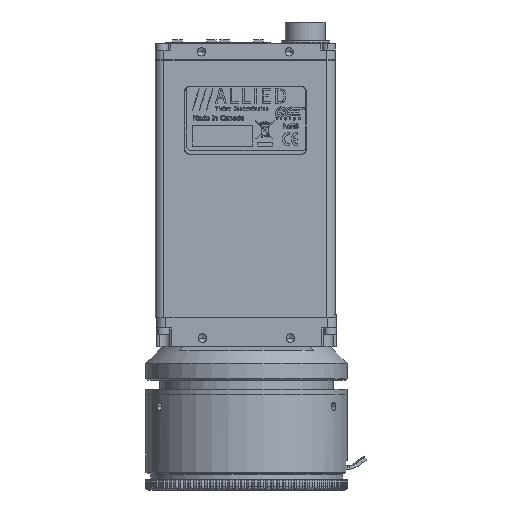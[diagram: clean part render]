
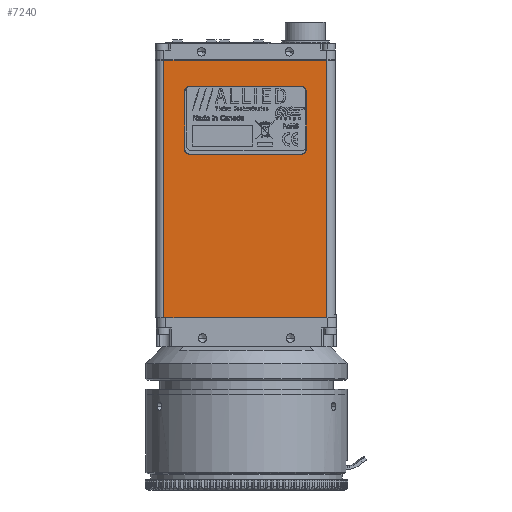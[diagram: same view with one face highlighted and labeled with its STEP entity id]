
A CAD part, front view. The second image highlights one B-rep face of the part: STEP entity #7240.
In plain terms, the highlighted planar face has unit normal (0, -1, 0).
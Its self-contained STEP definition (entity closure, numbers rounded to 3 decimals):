
#1696 = DIRECTION ( 'NONE',  ( -1., 0., 0. ) ) ;
#1931 = CARTESIAN_POINT ( 'NONE',  ( 18.034, -10.16, 28.893 ) ) ;
#5061 = ORIENTED_EDGE ( 'NONE', *, *, #145654, .T. ) ;
#6413 = DIRECTION ( 'NONE',  ( 0., 1., 0. ) ) ;
#7240 = ADVANCED_FACE ( 'NONE', ( #71254, #68857 ), #147604, .T. ) ;
#11572 = VERTEX_POINT ( 'NONE', #1931 ) ;
#15397 = EDGE_CURVE ( 'NONE', #209998, #77628, #119273, .T. ) ;
#15946 = EDGE_CURVE ( 'NONE', #77628, #193357, #219685, .T. ) ;
#21090 = ORIENTED_EDGE ( 'NONE', *, *, #25358, .T. ) ;
#22671 = CARTESIAN_POINT ( 'NONE',  ( -24.13, -10.16, -38.1 ) ) ;
#24043 = EDGE_LOOP ( 'NONE', ( #237854, #21090, #124357, #181994, #144247, #198197, #91130, #5061 ) ) ;
#25358 = EDGE_CURVE ( 'NONE', #204116, #196779, #190569, .T. ) ;
#26847 = AXIS2_PLACEMENT_3D ( 'NONE', #142779, #142738, #142561 ) ;
#28666 = DIRECTION ( 'NONE',  ( 1., 0., 0. ) ) ;
#28728 = DIRECTION ( 'NONE',  ( 0., 1., 0. ) ) ;
#28941 = CARTESIAN_POINT ( 'NONE',  ( 16.447, -10.16, 11.748 ) ) ;
#31603 = ORIENTED_EDGE ( 'NONE', *, *, #15946, .T. ) ;
#39596 = EDGE_CURVE ( 'NONE', #193357, #146713, #171119, .T. ) ;
#40890 = EDGE_CURVE ( 'NONE', #66508, #204116, #88320, .T. ) ;
#43137 = CARTESIAN_POINT ( 'NONE',  ( 16.447, -10.16, 30.48 ) ) ;
#44419 = VECTOR ( 'NONE', #1696, 1000. ) ;
#53160 = CARTESIAN_POINT ( 'NONE',  ( -16.447, -10.16, 30.48 ) ) ;
#54370 = ORIENTED_EDGE ( 'NONE', *, *, #15397, .T. ) ;
#60992 = AXIS2_PLACEMENT_3D ( 'NONE', #101407, #231278, #120393 ) ;
#62649 = EDGE_CURVE ( 'NONE', #212460, #77068, #83878, .T. ) ;
#66508 = VERTEX_POINT ( 'NONE', #79069 ) ;
#68857 = FACE_BOUND ( 'NONE', #24043, .T. ) ;
#71254 = FACE_OUTER_BOUND ( 'NONE', #96075, .T. ) ;
#71299 = VECTOR ( 'NONE', #153692, 1000. ) ;
#71497 = CARTESIAN_POINT ( 'NONE',  ( 24.13, -10.16, 38.1 ) ) ;
#74944 = LINE ( 'NONE', #214499, #163066 ) ;
#76645 = VECTOR ( 'NONE', #101101, 1000. ) ;
#77068 = VERTEX_POINT ( 'NONE', #150083 ) ;
#77628 = VERTEX_POINT ( 'NONE', #22671 ) ;
#79069 = CARTESIAN_POINT ( 'NONE',  ( -18.034, -10.16, 28.893 ) ) ;
#82389 = EDGE_CURVE ( 'NONE', #11572, #212460, #167707, .T. ) ;
#83878 = CIRCLE ( 'NONE', #196903, 1.587 ) ;
#87845 = CARTESIAN_POINT ( 'NONE',  ( -18.034, -10.16, -92.399 ) ) ;
#88320 = CIRCLE ( 'NONE', #112807, 1.587 ) ;
#91117 = VECTOR ( 'NONE', #129444, 1000. ) ;
#91130 = ORIENTED_EDGE ( 'NONE', *, *, #108941, .T. ) ;
#91446 = CIRCLE ( 'NONE', #60992, 1.587 ) ;
#92226 = DIRECTION ( 'NONE',  ( 0., 0., -1. ) ) ;
#94706 = LINE ( 'NONE', #185688, #44419 ) ;
#96075 = EDGE_LOOP ( 'NONE', ( #180226, #54370, #31603, #175676 ) ) ;
#101101 = DIRECTION ( 'NONE',  ( 1., 0., 0. ) ) ;
#101407 = CARTESIAN_POINT ( 'NONE',  ( -16.447, -10.16, 11.748 ) ) ;
#108498 = CARTESIAN_POINT ( 'NONE',  ( 24.13, -10.16, -38.1 ) ) ;
#108941 = EDGE_CURVE ( 'NONE', #139925, #140424, #91446, .T. ) ;
#111492 = CARTESIAN_POINT ( 'NONE',  ( -16.447, -10.16, 10.16 ) ) ;
#112807 = AXIS2_PLACEMENT_3D ( 'NONE', #155530, #154950, #154719 ) ;
#115281 = EDGE_CURVE ( 'NONE', #196779, #11572, #120610, .T. ) ;
#117934 = VECTOR ( 'NONE', #92226, 1000. ) ;
#119273 = LINE ( 'NONE', #190317, #218190 ) ;
#119670 = CARTESIAN_POINT ( 'NONE',  ( 16.447, -10.16, 28.893 ) ) ;
#120393 = DIRECTION ( 'NONE',  ( 1., 0., 0. ) ) ;
#120610 = CIRCLE ( 'NONE', #181032, 1.587 ) ;
#124357 = ORIENTED_EDGE ( 'NONE', *, *, #115281, .T. ) ;
#125976 = CARTESIAN_POINT ( 'NONE',  ( 18.034, -10.16, 11.748 ) ) ;
#129444 = DIRECTION ( 'NONE',  ( 1., 0., 0. ) ) ;
#132452 = CARTESIAN_POINT ( 'NONE',  ( 24.13, -10.16, 30.48 ) ) ;
#138568 = DIRECTION ( 'NONE',  ( 1., 0., 0. ) ) ;
#139925 = VERTEX_POINT ( 'NONE', #111492 ) ;
#140424 = VERTEX_POINT ( 'NONE', #149807 ) ;
#142561 = DIRECTION ( 'NONE',  ( 1., 0., 0. ) ) ;
#142738 = DIRECTION ( 'NONE',  ( 0., -1., 0. ) ) ;
#142779 = CARTESIAN_POINT ( 'NONE',  ( 24.13, -10.16, -92.399 ) ) ;
#144247 = ORIENTED_EDGE ( 'NONE', *, *, #62649, .T. ) ;
#145654 = EDGE_CURVE ( 'NONE', #140424, #66508, #180175, .T. ) ;
#146713 = VERTEX_POINT ( 'NONE', #71497 ) ;
#147604 = PLANE ( 'NONE',  #26847 ) ;
#148102 = CARTESIAN_POINT ( 'NONE',  ( 18.034, -10.16, -92.399 ) ) ;
#149807 = CARTESIAN_POINT ( 'NONE',  ( -18.034, -10.16, 11.748 ) ) ;
#150083 = CARTESIAN_POINT ( 'NONE',  ( 16.447, -10.16, 10.16 ) ) ;
#152898 = CARTESIAN_POINT ( 'NONE',  ( 24.13, -10.16, -92.399 ) ) ;
#153692 = DIRECTION ( 'NONE',  ( 0., 0., 1. ) ) ;
#154719 = DIRECTION ( 'NONE',  ( 1., 0., 0. ) ) ;
#154950 = DIRECTION ( 'NONE',  ( 0., 1., 0. ) ) ;
#155530 = CARTESIAN_POINT ( 'NONE',  ( -16.447, -10.16, 28.893 ) ) ;
#163066 = VECTOR ( 'NONE', #232552, 1000. ) ;
#166468 = CARTESIAN_POINT ( 'NONE',  ( -24.13, -10.16, 38.1 ) ) ;
#167707 = LINE ( 'NONE', #148102, #117934 ) ;
#169128 = EDGE_CURVE ( 'NONE', #77068, #139925, #74944, .T. ) ;
#171119 = LINE ( 'NONE', #152898, #71299 ) ;
#175676 = ORIENTED_EDGE ( 'NONE', *, *, #39596, .T. ) ;
#180175 = LINE ( 'NONE', #87845, #226536 ) ;
#180226 = ORIENTED_EDGE ( 'NONE', *, *, #195117, .T. ) ;
#181032 = AXIS2_PLACEMENT_3D ( 'NONE', #119670, #6413, #138568 ) ;
#181994 = ORIENTED_EDGE ( 'NONE', *, *, #82389, .T. ) ;
#185688 = CARTESIAN_POINT ( 'NONE',  ( 24.13, -10.16, 38.1 ) ) ;
#187587 = DIRECTION ( 'NONE',  ( 0., 0., -1. ) ) ;
#190317 = CARTESIAN_POINT ( 'NONE',  ( -24.13, -10.16, -92.399 ) ) ;
#190569 = LINE ( 'NONE', #132452, #91117 ) ;
#193357 = VERTEX_POINT ( 'NONE', #200615 ) ;
#195117 = EDGE_CURVE ( 'NONE', #146713, #209998, #94706, .T. ) ;
#196779 = VERTEX_POINT ( 'NONE', #43137 ) ;
#196903 = AXIS2_PLACEMENT_3D ( 'NONE', #28941, #28728, #28666 ) ;
#198197 = ORIENTED_EDGE ( 'NONE', *, *, #169128, .T. ) ;
#200615 = CARTESIAN_POINT ( 'NONE',  ( 24.13, -10.16, -38.1 ) ) ;
#204116 = VERTEX_POINT ( 'NONE', #53160 ) ;
#209998 = VERTEX_POINT ( 'NONE', #166468 ) ;
#212460 = VERTEX_POINT ( 'NONE', #125976 ) ;
#214499 = CARTESIAN_POINT ( 'NONE',  ( 24.13, -10.16, 10.16 ) ) ;
#218190 = VECTOR ( 'NONE', #187587, 1000. ) ;
#218266 = DIRECTION ( 'NONE',  ( 0., 0., 1. ) ) ;
#219685 = LINE ( 'NONE', #108498, #76645 ) ;
#226536 = VECTOR ( 'NONE', #218266, 1000. ) ;
#231278 = DIRECTION ( 'NONE',  ( 0., 1., 0. ) ) ;
#232552 = DIRECTION ( 'NONE',  ( -1., 0., 0. ) ) ;
#237854 = ORIENTED_EDGE ( 'NONE', *, *, #40890, .T. ) ;
